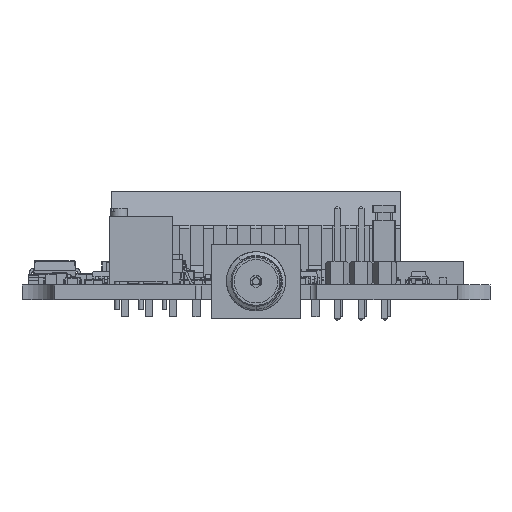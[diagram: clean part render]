
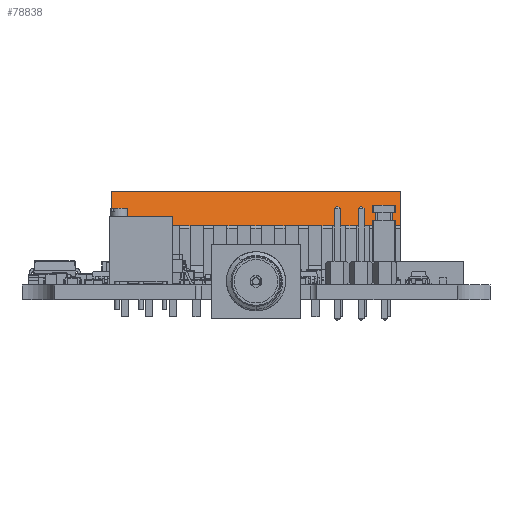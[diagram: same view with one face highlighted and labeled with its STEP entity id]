
A CAD part, left-side view. The second image highlights one B-rep face of the part: STEP entity #78838.
In plain terms, the highlighted planar face has unit normal (-0.965, 0, 0.264) as drawn and (0, 0.964, 0.264) by its records, which use the part's own axes.
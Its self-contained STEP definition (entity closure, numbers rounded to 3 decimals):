
#78729 = EDGE_CURVE('',#78730,#78732,#78734,.T.);
#78730 = VERTEX_POINT('',#78731);
#78731 = CARTESIAN_POINT('',(15.47,1.15,0.));
#78732 = VERTEX_POINT('',#78733);
#78733 = CARTESIAN_POINT('',(15.47,2.15,-3.65));
#78734 = LINE('',#78735,#78736);
#78735 = CARTESIAN_POINT('',(15.47,1.15,0.));
#78736 = VECTOR('',#78737,1.);
#78737 = DIRECTION('',(0.,0.264,-0.964));
#78838 = ADVANCED_FACE('',(#78839),#79056,.T.);
#78839 = FACE_BOUND('',#78840,.F.);
#78840 = EDGE_LOOP('',(#78841,#78851,#78857,#78858,#78866,#78874,#78882,
    #78890,#78898,#78906,#78914,#78922,#78930,#78938,#78946,#78954,
    #78962,#78970,#78978,#78986,#78994,#79002,#79010,#79018,#79026,
    #79034,#79042,#79050));
#78841 = ORIENTED_EDGE('',*,*,#78842,.F.);
#78842 = EDGE_CURVE('',#78843,#78845,#78847,.T.);
#78843 = VERTEX_POINT('',#78844);
#78844 = CARTESIAN_POINT('',(14.67,2.15,-3.65));
#78845 = VERTEX_POINT('',#78846);
#78846 = CARTESIAN_POINT('',(13.27,2.15,-3.65));
#78847 = LINE('',#78848,#78849);
#78848 = CARTESIAN_POINT('',(14.67,2.15,-3.65));
#78849 = VECTOR('',#78850,1.);
#78850 = DIRECTION('',(-1.,0.,0.));
#78851 = ORIENTED_EDGE('',*,*,#78852,.F.);
#78852 = EDGE_CURVE('',#78732,#78843,#78853,.T.);
#78853 = LINE('',#78854,#78855);
#78854 = CARTESIAN_POINT('',(15.47,2.15,-3.65));
#78855 = VECTOR('',#78856,1.);
#78856 = DIRECTION('',(-1.,0.,0.));
#78857 = ORIENTED_EDGE('',*,*,#78729,.F.);
#78858 = ORIENTED_EDGE('',*,*,#78859,.T.);
#78859 = EDGE_CURVE('',#78730,#78860,#78862,.T.);
#78860 = VERTEX_POINT('',#78861);
#78861 = CARTESIAN_POINT('',(-15.47,1.15,0.));
#78862 = LINE('',#78863,#78864);
#78863 = CARTESIAN_POINT('',(15.47,1.15,0.));
#78864 = VECTOR('',#78865,1.);
#78865 = DIRECTION('',(-1.,0.,0.));
#78866 = ORIENTED_EDGE('',*,*,#78867,.T.);
#78867 = EDGE_CURVE('',#78860,#78868,#78870,.T.);
#78868 = VERTEX_POINT('',#78869);
#78869 = CARTESIAN_POINT('',(-15.47,2.15,-3.65));
#78870 = LINE('',#78871,#78872);
#78871 = CARTESIAN_POINT('',(-15.47,1.15,0.));
#78872 = VECTOR('',#78873,1.);
#78873 = DIRECTION('',(0.,0.264,-0.964));
#78874 = ORIENTED_EDGE('',*,*,#78875,.F.);
#78875 = EDGE_CURVE('',#78876,#78868,#78878,.T.);
#78876 = VERTEX_POINT('',#78877);
#78877 = CARTESIAN_POINT('',(-14.67,2.15,-3.65));
#78878 = LINE('',#78879,#78880);
#78879 = CARTESIAN_POINT('',(-14.67,2.15,-3.65));
#78880 = VECTOR('',#78881,1.);
#78881 = DIRECTION('',(-1.,0.,0.));
#78882 = ORIENTED_EDGE('',*,*,#78883,.F.);
#78883 = EDGE_CURVE('',#78884,#78876,#78886,.T.);
#78884 = VERTEX_POINT('',#78885);
#78885 = CARTESIAN_POINT('',(-13.27,2.15,-3.65));
#78886 = LINE('',#78887,#78888);
#78887 = CARTESIAN_POINT('',(-13.27,2.15,-3.65));
#78888 = VECTOR('',#78889,1.);
#78889 = DIRECTION('',(-1.,0.,0.));
#78890 = ORIENTED_EDGE('',*,*,#78891,.F.);
#78891 = EDGE_CURVE('',#78892,#78884,#78894,.T.);
#78892 = VERTEX_POINT('',#78893);
#78893 = CARTESIAN_POINT('',(-12.13,2.15,-3.65));
#78894 = LINE('',#78895,#78896);
#78895 = CARTESIAN_POINT('',(-12.13,2.15,-3.65));
#78896 = VECTOR('',#78897,1.);
#78897 = DIRECTION('',(-1.,0.,0.));
#78898 = ORIENTED_EDGE('',*,*,#78899,.F.);
#78899 = EDGE_CURVE('',#78900,#78892,#78902,.T.);
#78900 = VERTEX_POINT('',#78901);
#78901 = CARTESIAN_POINT('',(-10.73,2.15,-3.65));
#78902 = LINE('',#78903,#78904);
#78903 = CARTESIAN_POINT('',(-10.73,2.15,-3.65));
#78904 = VECTOR('',#78905,1.);
#78905 = DIRECTION('',(-1.,0.,0.));
#78906 = ORIENTED_EDGE('',*,*,#78907,.F.);
#78907 = EDGE_CURVE('',#78908,#78900,#78910,.T.);
#78908 = VERTEX_POINT('',#78909);
#78909 = CARTESIAN_POINT('',(-9.59,2.15,-3.65));
#78910 = LINE('',#78911,#78912);
#78911 = CARTESIAN_POINT('',(-9.59,2.15,-3.65));
#78912 = VECTOR('',#78913,1.);
#78913 = DIRECTION('',(-1.,0.,0.));
#78914 = ORIENTED_EDGE('',*,*,#78915,.F.);
#78915 = EDGE_CURVE('',#78916,#78908,#78918,.T.);
#78916 = VERTEX_POINT('',#78917);
#78917 = CARTESIAN_POINT('',(-8.19,2.15,-3.65));
#78918 = LINE('',#78919,#78920);
#78919 = CARTESIAN_POINT('',(-8.19,2.15,-3.65));
#78920 = VECTOR('',#78921,1.);
#78921 = DIRECTION('',(-1.,0.,0.));
#78922 = ORIENTED_EDGE('',*,*,#78923,.F.);
#78923 = EDGE_CURVE('',#78924,#78916,#78926,.T.);
#78924 = VERTEX_POINT('',#78925);
#78925 = CARTESIAN_POINT('',(-7.05,2.15,-3.65));
#78926 = LINE('',#78927,#78928);
#78927 = CARTESIAN_POINT('',(-7.05,2.15,-3.65));
#78928 = VECTOR('',#78929,1.);
#78929 = DIRECTION('',(-1.,0.,0.));
#78930 = ORIENTED_EDGE('',*,*,#78931,.F.);
#78931 = EDGE_CURVE('',#78932,#78924,#78934,.T.);
#78932 = VERTEX_POINT('',#78933);
#78933 = CARTESIAN_POINT('',(-5.65,2.15,-3.65));
#78934 = LINE('',#78935,#78936);
#78935 = CARTESIAN_POINT('',(-5.65,2.15,-3.65));
#78936 = VECTOR('',#78937,1.);
#78937 = DIRECTION('',(-1.,0.,0.));
#78938 = ORIENTED_EDGE('',*,*,#78939,.F.);
#78939 = EDGE_CURVE('',#78940,#78932,#78942,.T.);
#78940 = VERTEX_POINT('',#78941);
#78941 = CARTESIAN_POINT('',(-4.51,2.15,-3.65));
#78942 = LINE('',#78943,#78944);
#78943 = CARTESIAN_POINT('',(-4.51,2.15,-3.65));
#78944 = VECTOR('',#78945,1.);
#78945 = DIRECTION('',(-1.,0.,0.));
#78946 = ORIENTED_EDGE('',*,*,#78947,.F.);
#78947 = EDGE_CURVE('',#78948,#78940,#78950,.T.);
#78948 = VERTEX_POINT('',#78949);
#78949 = CARTESIAN_POINT('',(-3.11,2.15,-3.65));
#78950 = LINE('',#78951,#78952);
#78951 = CARTESIAN_POINT('',(-3.11,2.15,-3.65));
#78952 = VECTOR('',#78953,1.);
#78953 = DIRECTION('',(-1.,0.,0.));
#78954 = ORIENTED_EDGE('',*,*,#78955,.F.);
#78955 = EDGE_CURVE('',#78956,#78948,#78958,.T.);
#78956 = VERTEX_POINT('',#78957);
#78957 = CARTESIAN_POINT('',(-1.97,2.15,-3.65));
#78958 = LINE('',#78959,#78960);
#78959 = CARTESIAN_POINT('',(-1.97,2.15,-3.65));
#78960 = VECTOR('',#78961,1.);
#78961 = DIRECTION('',(-1.,0.,0.));
#78962 = ORIENTED_EDGE('',*,*,#78963,.F.);
#78963 = EDGE_CURVE('',#78964,#78956,#78966,.T.);
#78964 = VERTEX_POINT('',#78965);
#78965 = CARTESIAN_POINT('',(-0.57,2.15,-3.65));
#78966 = LINE('',#78967,#78968);
#78967 = CARTESIAN_POINT('',(-0.57,2.15,-3.65));
#78968 = VECTOR('',#78969,1.);
#78969 = DIRECTION('',(-1.,0.,0.));
#78970 = ORIENTED_EDGE('',*,*,#78971,.F.);
#78971 = EDGE_CURVE('',#78972,#78964,#78974,.T.);
#78972 = VERTEX_POINT('',#78973);
#78973 = CARTESIAN_POINT('',(0.57,2.15,-3.65));
#78974 = LINE('',#78975,#78976);
#78975 = CARTESIAN_POINT('',(0.57,2.15,-3.65));
#78976 = VECTOR('',#78977,1.);
#78977 = DIRECTION('',(-1.,0.,0.));
#78978 = ORIENTED_EDGE('',*,*,#78979,.F.);
#78979 = EDGE_CURVE('',#78980,#78972,#78982,.T.);
#78980 = VERTEX_POINT('',#78981);
#78981 = CARTESIAN_POINT('',(1.97,2.15,-3.65));
#78982 = LINE('',#78983,#78984);
#78983 = CARTESIAN_POINT('',(1.97,2.15,-3.65));
#78984 = VECTOR('',#78985,1.);
#78985 = DIRECTION('',(-1.,0.,0.));
#78986 = ORIENTED_EDGE('',*,*,#78987,.F.);
#78987 = EDGE_CURVE('',#78988,#78980,#78990,.T.);
#78988 = VERTEX_POINT('',#78989);
#78989 = CARTESIAN_POINT('',(3.11,2.15,-3.65));
#78990 = LINE('',#78991,#78992);
#78991 = CARTESIAN_POINT('',(3.11,2.15,-3.65));
#78992 = VECTOR('',#78993,1.);
#78993 = DIRECTION('',(-1.,0.,0.));
#78994 = ORIENTED_EDGE('',*,*,#78995,.F.);
#78995 = EDGE_CURVE('',#78996,#78988,#78998,.T.);
#78996 = VERTEX_POINT('',#78997);
#78997 = CARTESIAN_POINT('',(4.51,2.15,-3.65));
#78998 = LINE('',#78999,#79000);
#78999 = CARTESIAN_POINT('',(4.51,2.15,-3.65));
#79000 = VECTOR('',#79001,1.);
#79001 = DIRECTION('',(-1.,0.,0.));
#79002 = ORIENTED_EDGE('',*,*,#79003,.F.);
#79003 = EDGE_CURVE('',#79004,#78996,#79006,.T.);
#79004 = VERTEX_POINT('',#79005);
#79005 = CARTESIAN_POINT('',(5.65,2.15,-3.65));
#79006 = LINE('',#79007,#79008);
#79007 = CARTESIAN_POINT('',(5.65,2.15,-3.65));
#79008 = VECTOR('',#79009,1.);
#79009 = DIRECTION('',(-1.,0.,0.));
#79010 = ORIENTED_EDGE('',*,*,#79011,.F.);
#79011 = EDGE_CURVE('',#79012,#79004,#79014,.T.);
#79012 = VERTEX_POINT('',#79013);
#79013 = CARTESIAN_POINT('',(7.05,2.15,-3.65));
#79014 = LINE('',#79015,#79016);
#79015 = CARTESIAN_POINT('',(7.05,2.15,-3.65));
#79016 = VECTOR('',#79017,1.);
#79017 = DIRECTION('',(-1.,0.,0.));
#79018 = ORIENTED_EDGE('',*,*,#79019,.F.);
#79019 = EDGE_CURVE('',#79020,#79012,#79022,.T.);
#79020 = VERTEX_POINT('',#79021);
#79021 = CARTESIAN_POINT('',(8.19,2.15,-3.65));
#79022 = LINE('',#79023,#79024);
#79023 = CARTESIAN_POINT('',(8.19,2.15,-3.65));
#79024 = VECTOR('',#79025,1.);
#79025 = DIRECTION('',(-1.,0.,0.));
#79026 = ORIENTED_EDGE('',*,*,#79027,.F.);
#79027 = EDGE_CURVE('',#79028,#79020,#79030,.T.);
#79028 = VERTEX_POINT('',#79029);
#79029 = CARTESIAN_POINT('',(9.59,2.15,-3.65));
#79030 = LINE('',#79031,#79032);
#79031 = CARTESIAN_POINT('',(9.59,2.15,-3.65));
#79032 = VECTOR('',#79033,1.);
#79033 = DIRECTION('',(-1.,0.,0.));
#79034 = ORIENTED_EDGE('',*,*,#79035,.F.);
#79035 = EDGE_CURVE('',#79036,#79028,#79038,.T.);
#79036 = VERTEX_POINT('',#79037);
#79037 = CARTESIAN_POINT('',(10.73,2.15,-3.65));
#79038 = LINE('',#79039,#79040);
#79039 = CARTESIAN_POINT('',(10.73,2.15,-3.65));
#79040 = VECTOR('',#79041,1.);
#79041 = DIRECTION('',(-1.,0.,0.));
#79042 = ORIENTED_EDGE('',*,*,#79043,.F.);
#79043 = EDGE_CURVE('',#79044,#79036,#79046,.T.);
#79044 = VERTEX_POINT('',#79045);
#79045 = CARTESIAN_POINT('',(12.13,2.15,-3.65));
#79046 = LINE('',#79047,#79048);
#79047 = CARTESIAN_POINT('',(12.13,2.15,-3.65));
#79048 = VECTOR('',#79049,1.);
#79049 = DIRECTION('',(-1.,0.,0.));
#79050 = ORIENTED_EDGE('',*,*,#79051,.F.);
#79051 = EDGE_CURVE('',#78845,#79044,#79052,.T.);
#79052 = LINE('',#79053,#79054);
#79053 = CARTESIAN_POINT('',(13.27,2.15,-3.65));
#79054 = VECTOR('',#79055,1.);
#79055 = DIRECTION('',(-1.,0.,0.));
#79056 = PLANE('',#79057);
#79057 = AXIS2_PLACEMENT_3D('',#79058,#79059,#79060);
#79058 = CARTESIAN_POINT('',(15.47,1.15,0.));
#79059 = DIRECTION('',(0.,0.964,0.264));
#79060 = DIRECTION('',(0.,0.264,-0.964));
